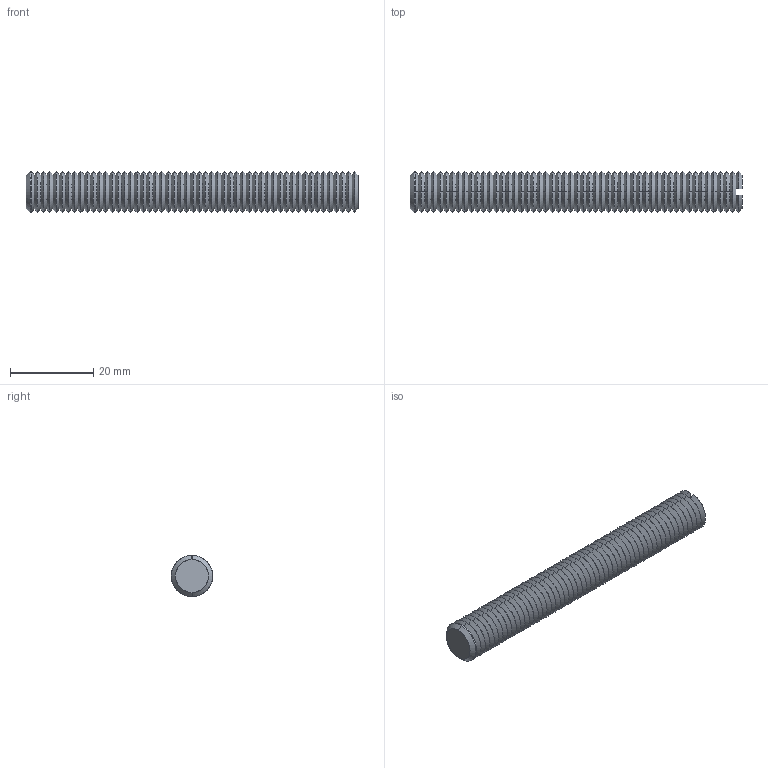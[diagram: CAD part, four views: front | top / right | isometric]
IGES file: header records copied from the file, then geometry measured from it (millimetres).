
Start section: SolidWorks IGES file using analytic representation for surfaces
Global section: file name: C:\Documents and Settings\IANO\Desktop\Temp File\Process pending\EXISTING\34300_v2\34300_v2_20170622_IGES\34300.W0109.igs; native system: SolidWorks 2009; preprocessor: SolidWorks 2009; author: IANO; date: 170622.094122; units: millimetre
Bounding box: 80 x 10 x 10 mm (x, y, z)
Surface area: 3757.2 mm2 (no closed solid volume)
Topology: 0 solids, 0 shells, 220 faces, 944 edges, 944 vertices
Faces by surface type: revolution 214, bspline 6
